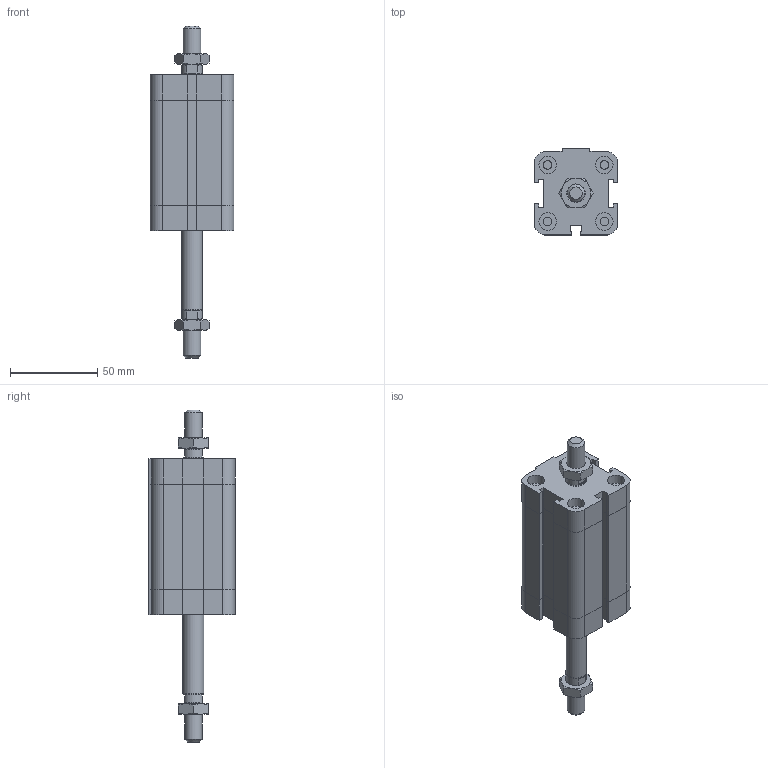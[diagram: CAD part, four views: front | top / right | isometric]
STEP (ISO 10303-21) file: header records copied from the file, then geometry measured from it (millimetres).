
FILE_DESCRIPTION((''),'2;1');
FILE_NAME('I:\Area Tecnica\Disegni\VARIE-3D\Componenti\EUROPE\15##_###_####_04_#\1561_32_0045_04_1.iam.stp','2009-04-20T14:45:10',(''),(''),'Autodesk Inventor 2009','Autodesk Inventor 2009','');
FILE_SCHEMA(('AUTOMOTIVE_DESIGN { 1 0 10303 214 1 1 1 1 }'));
Length unit declared in the file: millimetre
Products named in the file (4): 1561_32_0045_04_1; 1561_32_0045_03_1_C; 1561_32_0045_04_1_S; DBFM10
Assembly tree (4 placements, depth 2):
  1561_32_0045_04_1
    1561_32_0045_03_1_C
    1561_32_0045_04_1_S
    DBFM10  x2
Bounding box: 48 x 49.5 x 190.5 mm (x, y, z)
Volume: 193087.8 mm3; surface area: 40451.8 mm2
Topology: 4 solids, 4 shells, 222 faces, 483 edges, 289 vertices
Faces by surface type: plane 129, cone 35, bspline 33, cylinder 25
Full cylindrical faces by diameter (mm): 4.917 x4, 8.8 x1, 10 x5, 11.7 x2, 12 x1
Entity records: 5450 total; most frequent: CARTESIAN_POINT 1222, DIRECTION 802, ORIENTED_EDGE 772, EDGE_CURVE 386, AXIS2_PLACEMENT_3D 272, EDGE_LOOP 258, VECTOR 258, LINE 258
